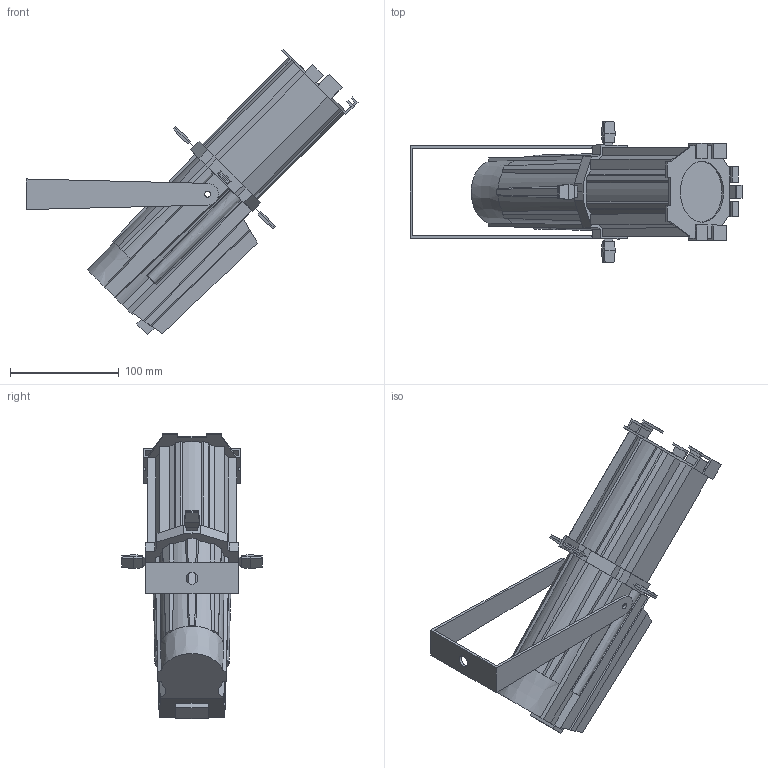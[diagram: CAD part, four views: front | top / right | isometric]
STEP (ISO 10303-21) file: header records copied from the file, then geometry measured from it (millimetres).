
FILE_DESCRIPTION(/* description */ (''),/* implementation_level */ '2;1');
FILE_NAME(/* name */ 'D:/dgooch/Documents/CADENG/PRO/Ovation ETD 40WW/45/Ovation ETD-40WW_45.step',/* time_stamp */ '2019-03-21T14:26:43-04:00',/* author */ ('dgooch'),/* organization */ (''),/* preprocessor_version */ 'ST-DEVELOPER v17.2',/* originating_system */ 'Autodesk Translation Framework v7.6.0.251',/* authorisation */ '');
FILE_SCHEMA (('AUTOMOTIVE_DESIGN { 1 0 10303 214 3 1 1 }'));
Length unit declared in the file: millimetre
Products named in the file (3): Ovation ETD40WW_V2; Bracket; Main
Assembly tree (2 placements, depth 2):
  Ovation ETD40WW_V2
    Bracket
    Main
Bounding box: 305.24 x 129.54 x 262.45 mm (x, y, z)
Volume: 1389315.7 mm3; surface area: 128554.7 mm2
Topology: 2 solids, 2 shells, 294 faces, 797 edges, 512 vertices
Faces by surface type: plane 243, bspline 42, cylinder 9
Full cylindrical faces by diameter (mm): 5.5 x3, 11 x1, 56 x1
Entity records: 12297 total; most frequent: CARTESIAN_POINT 5144, ORIENTED_EDGE 1594, DIRECTION 1233, EDGE_CURVE 797, LINE 649, VECTOR 649, VERTEX_POINT 512, EDGE_LOOP 307
